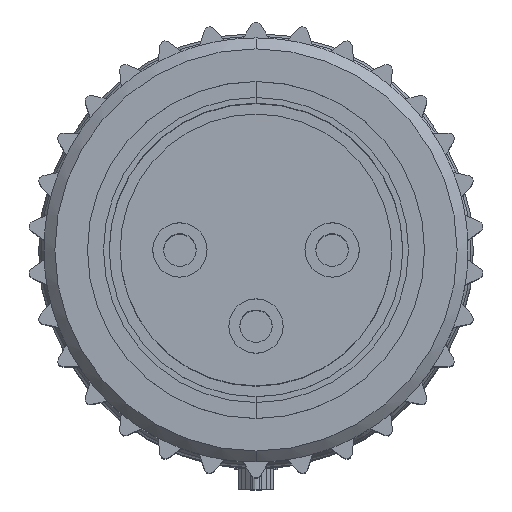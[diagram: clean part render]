
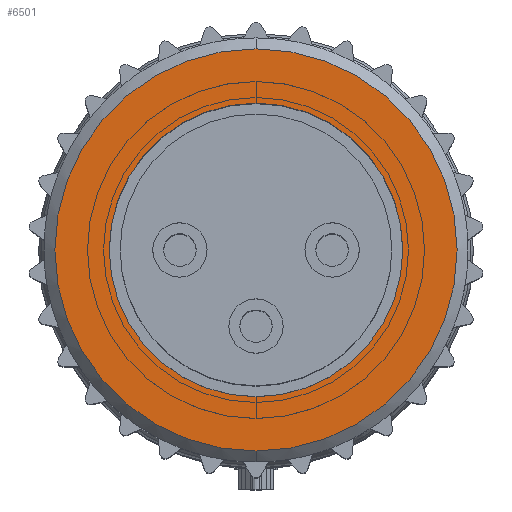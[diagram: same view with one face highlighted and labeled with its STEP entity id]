
A CAD part, top view. The second image highlights one B-rep face of the part: STEP entity #6501.
In plain terms, the highlighted planar face has unit normal (0, 0, 1).
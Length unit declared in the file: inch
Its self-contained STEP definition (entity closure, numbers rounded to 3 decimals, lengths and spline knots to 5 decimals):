
#379=CARTESIAN_POINT('',(0.,0.,0.));
#380=DIRECTION('',(0.,0.,-1.));
#381=DIRECTION('',(0.,1.,0.));
#382=AXIS2_PLACEMENT_3D('',#379,#380,#381);
#424=CARTESIAN_POINT('',(0.,0.,0.));
#425=DIRECTION('',(0.,0.,1.));
#426=DIRECTION('',(0.,1.,0.));
#427=AXIS2_PLACEMENT_3D('',#424,#425,#426);
#434=CARTESIAN_POINT('',(0.,0.,0.));
#435=DIRECTION('',(0.,0.,1.));
#436=DIRECTION('',(0.,1.,0.));
#437=AXIS2_PLACEMENT_3D('',#434,#435,#436);
#439=CARTESIAN_POINT('',(0.,0.,0.));
#440=DIRECTION('',(0.,0.,-1.));
#441=DIRECTION('',(0.,1.,0.));
#442=AXIS2_PLACEMENT_3D('',#439,#440,#441);
#4793=CARTESIAN_POINT('',(0.,0.135,0.));
#4794=CARTESIAN_POINT('',(0.,-0.135,0.));
#4795=VERTEX_POINT('',#4793);
#4796=VERTEX_POINT('',#4794);
#4801=CARTESIAN_POINT('',(0.,0.185,0.));
#4802=CARTESIAN_POINT('',(0.,-0.185,0.));
#4803=VERTEX_POINT('',#4801);
#4804=VERTEX_POINT('',#4802);
#6486=CARTESIAN_POINT('',(0.,0.,0.));
#6487=DIRECTION('',(0.,0.,1.));
#6488=DIRECTION('',(0.,1.,0.));
#6489=AXIS2_PLACEMENT_3D('',#6486,#6487,#6488);
#6490=PLANE('',#6489);
#6492=ORIENTED_EDGE('',*,*,#6491,.F.);
#6494=ORIENTED_EDGE('',*,*,#6493,.T.);
#6495=EDGE_LOOP('',(#6492,#6494));
#6496=FACE_OUTER_BOUND('',#6495,.F.);
#6497=ORIENTED_EDGE('',*,*,#6408,.F.);
#6498=ORIENTED_EDGE('',*,*,#6466,.T.);
#6499=EDGE_LOOP('',(#6497,#6498));
#6500=FACE_BOUND('',#6499,.F.);
#6501=ADVANCED_FACE('',(#6496,#6500),#6490,.T.);
#383=CIRCLE('',#382,0.135);
#428=CIRCLE('',#427,0.135);
#438=CIRCLE('',#437,0.185);
#443=CIRCLE('',#442,0.185);
#6408=EDGE_CURVE('',#4795,#4796,#383,.T.);
#6466=EDGE_CURVE('',#4795,#4796,#428,.T.);
#6491=EDGE_CURVE('',#4803,#4804,#438,.T.);
#6493=EDGE_CURVE('',#4803,#4804,#443,.T.);
